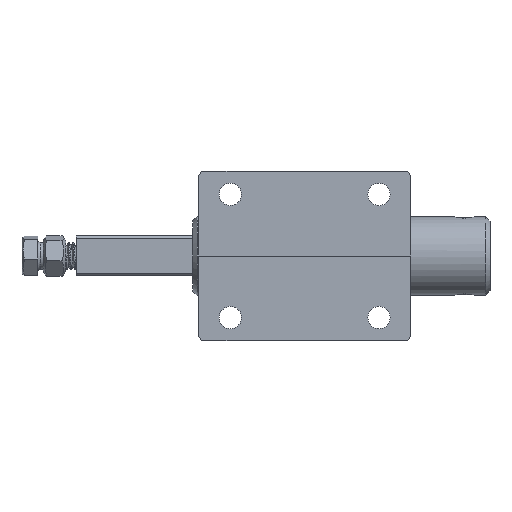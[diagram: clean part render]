
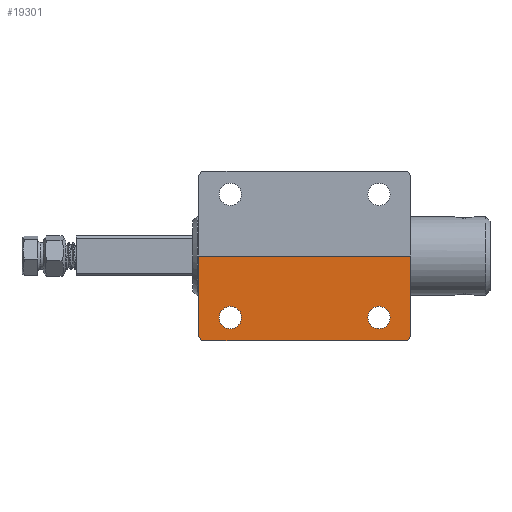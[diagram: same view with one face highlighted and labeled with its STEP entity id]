
A CAD part, front view. The second image highlights one B-rep face of the part: STEP entity #19301.
In plain terms, the highlighted planar face has unit normal (0, -1, 0).
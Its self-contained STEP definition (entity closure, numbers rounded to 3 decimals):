
#433=FACE_BOUND('',#2466,.T.);
#434=FACE_BOUND('',#2467,.T.);
#486=PLANE('',#20547);
#1436=FACE_OUTER_BOUND('',#2465,.T.);
#2465=EDGE_LOOP('',(#13420,#13421,#13422,#13423,#13424,#13425));
#2466=EDGE_LOOP('',(#13426,#13427));
#2467=EDGE_LOOP('',(#13428,#13429));
#3540=LINE('',#27568,#5641);
#3541=LINE('',#27572,#5642);
#3542=LINE('',#27576,#5643);
#3543=LINE('',#27577,#5644);
#5641=VECTOR('',#22254,1000.);
#5642=VECTOR('',#22257,1000.);
#5643=VECTOR('',#22260,1000.);
#5644=VECTOR('',#22261,1000.);
#7724=CIRCLE('',#20540,5.25);
#7725=CIRCLE('',#20541,5.25);
#7730=CIRCLE('',#20548,3.);
#7731=CIRCLE('',#20549,3.);
#7732=CIRCLE('',#20550,5.25);
#7733=CIRCLE('',#20551,5.25);
#8360=VERTEX_POINT('',#27543);
#8361=VERTEX_POINT('',#27545);
#8370=VERTEX_POINT('',#27566);
#8371=VERTEX_POINT('',#27567);
#8372=VERTEX_POINT('',#27569);
#8373=VERTEX_POINT('',#27571);
#8374=VERTEX_POINT('',#27573);
#8375=VERTEX_POINT('',#27575);
#8376=VERTEX_POINT('',#27578);
#8377=VERTEX_POINT('',#27579);
#10374=EDGE_CURVE('',#8360,#8361,#7724,.T.);
#10375=EDGE_CURVE('',#8361,#8360,#7725,.T.);
#10384=EDGE_CURVE('',#8370,#8371,#3540,.T.);
#10385=EDGE_CURVE('',#8371,#8372,#7730,.T.);
#10386=EDGE_CURVE('',#8372,#8373,#3541,.T.);
#10387=EDGE_CURVE('',#8373,#8374,#7731,.T.);
#10388=EDGE_CURVE('',#8374,#8375,#3542,.T.);
#10389=EDGE_CURVE('',#8370,#8375,#3543,.T.);
#10390=EDGE_CURVE('',#8376,#8377,#7732,.T.);
#10391=EDGE_CURVE('',#8377,#8376,#7733,.T.);
#13420=ORIENTED_EDGE('',*,*,#10384,.T.);
#13421=ORIENTED_EDGE('',*,*,#10385,.T.);
#13422=ORIENTED_EDGE('',*,*,#10386,.T.);
#13423=ORIENTED_EDGE('',*,*,#10387,.T.);
#13424=ORIENTED_EDGE('',*,*,#10388,.T.);
#13425=ORIENTED_EDGE('',*,*,#10389,.F.);
#13426=ORIENTED_EDGE('',*,*,#10375,.F.);
#13427=ORIENTED_EDGE('',*,*,#10374,.F.);
#13428=ORIENTED_EDGE('',*,*,#10390,.F.);
#13429=ORIENTED_EDGE('',*,*,#10391,.F.);
#19301=ADVANCED_FACE('',(#1436,#433,#434),#486,.F.);
#20540=AXIS2_PLACEMENT_3D('',#27546,#22234,#22235);
#20541=AXIS2_PLACEMENT_3D('',#27547,#22236,#22237);
#20547=AXIS2_PLACEMENT_3D('',#27565,#22252,#22253);
#20548=AXIS2_PLACEMENT_3D('',#27570,#22255,#22256);
#20549=AXIS2_PLACEMENT_3D('',#27574,#22258,#22259);
#20550=AXIS2_PLACEMENT_3D('',#27580,#22262,#22263);
#20551=AXIS2_PLACEMENT_3D('',#27581,#22264,#22265);
#22234=DIRECTION('center_axis',(0.,-1.,0.));
#22235=DIRECTION('ref_axis',(0.,0.,-1.));
#22236=DIRECTION('center_axis',(0.,-1.,0.));
#22237=DIRECTION('ref_axis',(0.,0.,-1.));
#22252=DIRECTION('center_axis',(0.,1.,0.));
#22253=DIRECTION('ref_axis',(0.,0.,-1.));
#22254=DIRECTION('',(0.,0.,-1.));
#22255=DIRECTION('center_axis',(0.,-1.,0.));
#22256=DIRECTION('ref_axis',(0.,0.,-1.));
#22257=DIRECTION('',(1.,0.,0.));
#22258=DIRECTION('center_axis',(0.,-1.,0.));
#22259=DIRECTION('ref_axis',(0.,0.,-1.));
#22260=DIRECTION('',(0.,0.,1.));
#22261=DIRECTION('',(1.,0.,0.));
#22262=DIRECTION('center_axis',(0.,-1.,0.));
#22263=DIRECTION('ref_axis',(0.,0.,1.));
#22264=DIRECTION('center_axis',(0.,-1.,0.));
#22265=DIRECTION('ref_axis',(0.,0.,1.));
#27543=CARTESIAN_POINT('',(35.,0.,-34.25));
#27545=CARTESIAN_POINT('',(35.,0.,-23.75));
#27546=CARTESIAN_POINT('Origin',(35.,0.,-29.));
#27547=CARTESIAN_POINT('Origin',(35.,0.,-29.));
#27565=CARTESIAN_POINT('Origin',(-47.,0.,37.));
#27566=CARTESIAN_POINT('',(-50.,0.,0.));
#27567=CARTESIAN_POINT('',(-50.,0.,-37.));
#27568=CARTESIAN_POINT('',(-50.,0.,37.));
#27569=CARTESIAN_POINT('',(-47.,0.,-40.));
#27570=CARTESIAN_POINT('Origin',(-47.,0.,-37.));
#27571=CARTESIAN_POINT('',(47.,0.,-40.));
#27572=CARTESIAN_POINT('',(-47.,0.,-40.));
#27573=CARTESIAN_POINT('',(50.,0.,-37.));
#27574=CARTESIAN_POINT('Origin',(47.,0.,-37.));
#27575=CARTESIAN_POINT('',(50.,0.,0.));
#27576=CARTESIAN_POINT('',(50.,0.,37.));
#27577=CARTESIAN_POINT('',(53.879,0.,0.));
#27578=CARTESIAN_POINT('',(-35.,0.,-23.75));
#27579=CARTESIAN_POINT('',(-35.,0.,-34.25));
#27580=CARTESIAN_POINT('Origin',(-35.,0.,-29.));
#27581=CARTESIAN_POINT('Origin',(-35.,0.,-29.));
